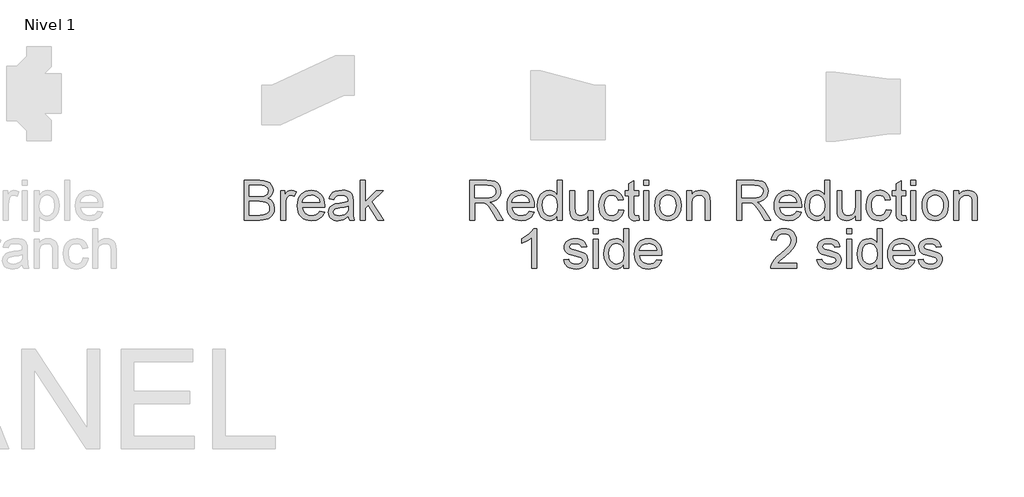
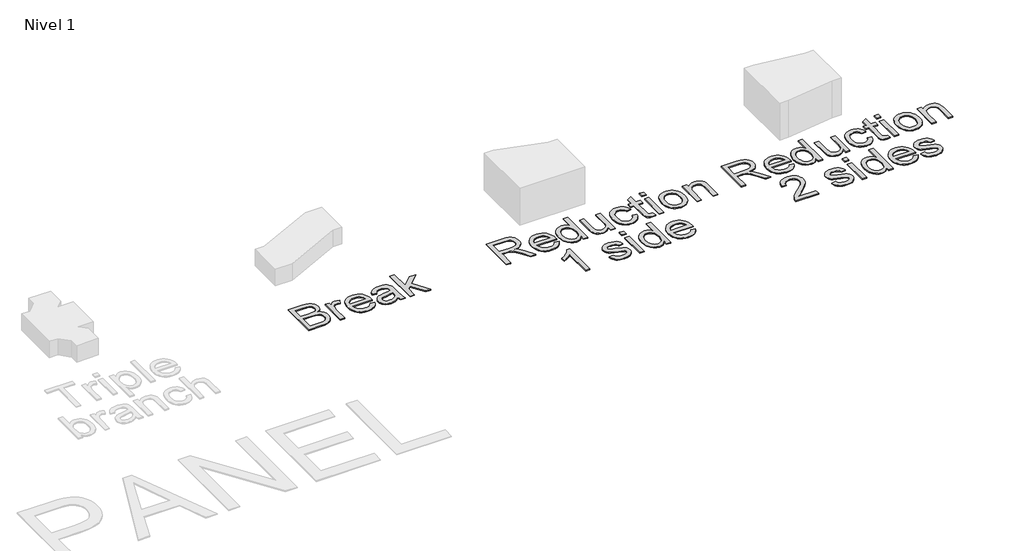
# One storey, part 5 of 6: 3 proxies.
"""IFC4 building model written with IfcOpenShell, lengths in millimetres."""

from ifc_helpers import new_model, si_unit, origin, origin_with_axes, place, context, project, spatial, polyline, outline, extrude, element, save

model = new_model("IFC4")

# Units and contexts
model_context = context("Model", 3, world=origin())
ifc_project = project(units=[si_unit("LENGTHUNIT", "METRE", prefix="MILLI")], contexts=[model_context])

# Site, building, storey
site = spatial("IfcSite", under=ifc_project)
building = spatial("IfcBuilding", under=site)
storey = spatial("IfcBuildingStorey", under=building, Name="Nivel 1", Elevation=0.0)

# Proxies
placement = place(None, origin())
element("IfcBuildingElementProxy", 1, Name="Texto de modelo 1", ObjectType="Texto de modelo 1", at=placement, inside=storey, context=model_context, shape_type="SweptSolid", body=[
    extrude(outline(polyline([(4060.8779808, -1016.3248037), (4060.8779808, -614.4995631), (4214.2111964, -614.4995631), (4256.3827358, -617.4548818), (4289.3081743, -626.3208379), (4314.5448792, -641.3181605), (4333.6502175, -662.667579), (4345.6799587, -687.7816565), (4349.6898725, -714.0729565), (4346.3176208, -738.267329), (4336.200866, -761.014699), (4319.2660315, -780.917115), (4295.4395409, -796.5766252), (4323.9013446, -811.4390578), (4344.931932, -834.0515378), (4357.9181664, -862.9180117), (4362.2469112, -896.5424261), (4359.2915925, -924.5627714), (4350.4256365, -950.547503), (4337.1941474, -972.6449481), (4321.1422296, -989.0034342), (4301.4850684, -1000.8492344), (4277.4378486, -1009.4086222), (4248.2157555, -1014.5957583), (4213.033974, -1016.3248037), (4060.8779808, -1016.3248037)]), holes=[polyline([(4111.1061359, -777.7410671), (4202.83138, -777.7410671), (4256.3949985, -773.424585), (4275.1447175, -765.981106), (4288.6214613, -754.8342815), (4296.7516534, -740.1557899), (4299.4617174, -722.1173094), (4296.9355944, -704.6061264), (4289.3572253, -689.3512864), (4277.0699666, -677.4441725), (4260.417175, -669.976168), (4234.861639, -666.0398306), (4195.8661475, -664.7277182), (4111.1061359, -664.7277182), (4111.1061359, -777.7410671)]), polyline([(4111.1061359, -966.0966486), (4214.1130945, -966.0966486), (4251.3918034, -964.1346113), (4282.9315531, -953.1962533), (4294.5075732, -943.7662115), (4303.8272504, -930.8780789), (4309.9708797, -915.1082041), (4312.0187562, -897.0329354), (4309.6152605, -876.0391362), (4302.4047734, -857.988393), (4289.8109464, -843.8739871), (4271.2574311, -834.6891999), (4244.9783939, -829.6492166), (4209.2080012, -827.9692222), (4111.1061359, -827.9692222), (4111.1061359, -966.0966486)])]), origin_with_axes(), (0.0, 0.0, 1.0), 10.0),
    extrude(outline(polyline([(4425.0321051, -1016.3248037), (4425.0321051, -721.2343926), (4468.9817408, -721.2343926), (4468.9817408, -764.8897227), (4485.2175995, -739.5794415), (4500.178134, -724.6679579), (4515.1877194, -717.3838944), (4531.5707309, -714.9558732), (4556.5867066, -718.8308969), (4581.9950897, -730.455968), (4565.2196707, -775.4847242), (4547.5613349, -767.7592023), (4529.9029992, -765.1840283), (4514.9056765, -767.6611004), (4501.5025091, -775.0923167), (4490.6745157, -786.9135915), (4483.402715, -802.560839), (4477.2958739, -830.6179725), (4475.2602602, -861.2257545), (4475.2602602, -1016.3248037), (4425.0321051, -1016.3248037)])), origin_with_axes(), (0.0, 0.0, 1.0), 10.0),
    extrude(outline(polyline([(4819.9902151, -928.4255323), (4869.2373515, -934.7040517), (4861.6865736, -954.428658), (4851.4931766, -971.8110823), (4838.6571607, -986.8513245), (4823.1785257, -999.5493847), (4805.2166873, -1009.6354827), (4784.931061, -1016.8398385), (4737.3884444, -1022.6033231), (4706.2227081, -1020.1170539), (4678.4537488, -1012.6582465), (4654.0815666, -1000.2269007), (4633.1061615, -982.8230167), (4616.2387721, -960.9309723), (4604.1906367, -935.0351455), (4596.9617555, -905.1355363), (4594.5521285, -871.2321448), (4596.986281, -836.179122), (4604.2887386, -805.2831658), (4616.4595013, -778.5442761), (4633.498569, -755.962453), (4654.4187918, -738.0220743), (4678.2330196, -725.2075182), (4704.9412525, -717.5187845), (4734.5434904, -714.9558732), (4763.1923007, -717.5126531), (4789.1003902, -725.1829927), (4812.2677589, -737.966892), (4832.6944067, -755.8643511), (4849.3686581, -778.3971233), (4861.2788377, -805.0869621), (4868.4249454, -835.9338674), (4870.8069814, -870.9378392), (4870.5126758, -884.4758966), (4644.7802835, -884.4758966), (4647.689617, -904.519334), (4653.4745613, -922.0734365), (4662.1351167, -937.1382042), (4673.6712829, -949.7136371), (4687.4453979, -959.6280569), (4702.8197996, -966.7097853), (4738.3694631, -972.375168), (4765.1022214, -969.7509431), (4787.6165995, -961.8782684), (4805.9125974, -948.2666346), (4819.9902151, -928.4255323)]), holes=[polyline([(4644.7802835, -834.2477415), (4820.5788263, -834.2477415), (4813.7852721, -807.711187), (4800.4679439, -788.728476), (4786.7704709, -778.4277801), (4771.1845371, -771.0701402), (4753.7101423, -766.6555563), (4734.3472866, -765.1840283), (4700.4898803, -769.8806551), (4672.4940605, -783.9705355), (4653.033103, -805.9330907), (4644.7802835, -834.2477415)])]), origin_with_axes(), (0.0, 0.0, 1.0), 10.0),
    extrude(outline(polyline([(5109.390718, -978.6536874), (5085.3925492, -999.2305537), (5060.6831418, -1012.6950347), (5034.6984102, -1020.126251), (5006.8742686, -1022.6033231), (4984.510109, -1021.113401), (4964.898933, -1016.6436348), (4948.0407406, -1009.1940244), (4933.9355317, -998.7645698), (4922.7979043, -986.0174587), (4914.8424562, -971.6148785), (4910.0691873, -955.5568295), (4908.4780977, -937.8433114), (4910.8815934, -917.0211905), (4918.0920805, -898.1120559), (4929.2143795, -881.9252481), (4943.3533108, -869.2701075), (4959.9693143, -859.7051756), (4978.5228296, -852.7889941), (5021.9819559, -845.2351505), (5073.3382824, -837.2888994), (5109.0964124, -827.9692222), (5109.390718, -816.7856095), (5105.9326272, -794.3693333), (5095.558355, -779.7031044), (5072.3572638, -768.8137973), (5040.0326991, -765.1840283), (5010.1116302, -767.5997868), (4989.2159329, -774.8470621), (4974.9666369, -788.2502294), (4964.9847721, -809.133664), (4914.7566171, -802.8551446), (4923.4754203, -775.3866223), (4936.4861802, -753.8042119), (4955.0029073, -737.2985731), (4980.2396122, -725.0603654), (5011.1049116, -717.4819963), (5046.5074223, -714.9558732), (5080.4629304, -717.1876907), (5107.3796297, -723.883143), (5127.6744531, -733.9508469), (5141.7643335, -746.2994192), (5151.1085362, -761.566522), (5157.1663264, -780.3898175), (5159.618873, -824.3394531), (5159.618873, -886.8303414), (5162.1695215, -974.0919506), (5172.1759118, -1016.3248037), (5121.9477567, -1016.3248037), (5113.9034038, -998.8626717), (5109.390718, -978.6536874)]), holes=[polyline([(5109.390718, -878.1973772), (5075.6436763, -886.5605613), (5028.3585772, -893.5993701), (4985.1447055, -901.7418249), (4973.8997791, -907.3091058), (4965.5733833, -914.9855768), (4960.4230354, -924.1826266), (4958.7062527, -934.3116442), (4962.4463864, -949.2476532), (4973.6667872, -961.4858609), (4992.1222006, -969.6528412), (5017.567372, -972.375168), (5044.545385, -969.3707984), (5068.3841382, -960.3576895), (5087.7102057, -947.0771495), (5101.1501613, -931.2704864), (5107.1098496, -914.9855768), (5109.0964124, -892.4221477), (5109.390718, -878.1973772)])]), origin_with_axes(), (0.0, 0.0, 1.0), 10.0),
    extrude(outline(polyline([(5228.6825863, -1016.3248037), (5228.6825863, -614.4995631), (5278.9107413, -614.4995631), (5278.9107413, -830.4217688), (5391.5316828, -721.2343926), (5460.9878035, -721.2343926), (5346.9934359, -831.7951949), (5467.2663229, -1016.3248037), (5408.6014074, -1016.3248037), (5310.9900513, -866.719459), (5278.9107413, -897.8177503), (5278.9107413, -1016.3248037), (5228.6825863, -1016.3248037)])), origin_with_axes(), (0.0, 0.0, 1.0), 10.0),
])
element("IfcBuildingElementProxy", 2, Name="Texto de modelo 1", ObjectType="Texto de modelo 1", at=placement, inside=storey, context=model_context, shape_type="SweptSolid", body=[
    extrude(outline(polyline([(6336.6216122, -1016.3248037), (6336.6216122, -614.4995631), (6509.7714046, -614.4995631), (6556.308477, -617.2096271), (6590.1658833, -625.3398192), (6614.9120788, -640.3494046), (6634.115519, -663.6976486), (6646.4395658, -692.6499616), (6650.5475814, -724.4717542), (6648.8461272, -745.1099341), (6643.7417645, -764.0558569), (6635.2344934, -781.3095224), (6623.3243138, -796.8709308), (6607.8579416, -810.2434414), (6588.6820926, -820.9304133), (6565.7967668, -828.9318467), (6539.2019642, -834.2477415), (6567.749607, -855.7320501), (6608.4618812, -907.4317331), (6675.4654552, -1016.3248037), (6617.0948453, -1016.3248037), (6564.8065511, -933.03632), (6527.0373329, -877.9030716), (6512.9965034, -861.8266285), (6500.5007783, -851.8570264), (6476.6129741, -842.2920945), (6447.4767201, -840.5262609), (6386.8497673, -840.5262609), (6386.8497673, -1016.3248037), (6336.6216122, -1016.3248037)]), holes=[polyline([(6386.8497673, -790.2981059), (6499.274505, -790.2981059), (6531.5622814, -788.5200095), (6556.6150453, -783.1857206), (6575.4751289, -773.9396198), (6589.1848646, -760.4260878), (6597.5357859, -744.0798645), (6600.3194263, -726.3356896), (6595.0096629, -701.8347488), (6579.0803725, -682.0917483), (6566.9188069, -674.4949851), (6551.6731638, -669.0687257), (6511.9296456, -664.7277182), (6386.8497673, -664.7277182), (6386.8497673, -790.2981059)])]), origin_with_axes(), (0.0, 0.0, 1.0), 10.0),
    extrude(outline(polyline([(6938.7708619, -928.4255323), (6988.0179983, -934.7040517), (6980.4672204, -954.428658), (6970.2738234, -971.8110823), (6957.4378075, -986.8513245), (6941.9591725, -999.5493847), (6923.9973341, -1009.6354827), (6903.7117078, -1016.8398385), (6856.1690912, -1022.6033231), (6825.0033549, -1020.1170539), (6797.2343956, -1012.6582465), (6772.8622134, -1000.2269007), (6751.8868083, -982.8230167), (6735.0194189, -960.9309723), (6722.9712835, -935.0351455), (6715.7424023, -905.1355363), (6713.3327753, -871.2321448), (6715.7669278, -836.179122), (6723.0693854, -805.2831658), (6735.2401481, -778.5442761), (6752.2792158, -755.962453), (6773.1994386, -738.0220743), (6797.0136664, -725.2075182), (6823.7218993, -717.5187845), (6853.3241371, -714.9558732), (6881.9729475, -717.5126531), (6907.881037, -725.1829927), (6931.0484057, -737.966892), (6951.4750535, -755.8643511), (6968.1493049, -778.3971233), (6980.0594845, -805.0869621), (6987.2055922, -835.9338674), (6989.5876282, -870.9378392), (6989.2933226, -884.4758966), (6763.5609303, -884.4758966), (6766.4702638, -904.519334), (6772.2552081, -922.0734365), (6780.9157634, -937.1382042), (6792.4519297, -949.7136371), (6806.2260447, -959.6280569), (6821.6004464, -966.7097853), (6857.1501099, -972.375168), (6883.8828682, -969.7509431), (6906.3972463, -961.8782684), (6924.6932442, -948.2666346), (6938.7708619, -928.4255323)]), holes=[polyline([(6763.5609303, -834.2477415), (6939.3594731, -834.2477415), (6932.5659189, -807.711187), (6919.2485907, -788.728476), (6905.5511177, -778.4277801), (6889.9651839, -771.0701402), (6872.4907891, -766.6555563), (6853.1279334, -765.1840283), (6819.2705271, -769.8806551), (6791.2747073, -783.9705355), (6771.8137498, -805.9330907), (6763.5609303, -834.2477415)])]), origin_with_axes(), (0.0, 0.0, 1.0), 10.0),
    extrude(outline(polyline([(7221.8928454, -1016.3248037), (7221.8928454, -968.9416027), (7206.8648659, -992.4186054), (7188.6608385, -1009.187893), (7167.2807632, -1019.2494656), (7142.72464, -1022.6033231), (7110.2529226, -1017.7472807), (7080.5280574, -1003.1791537), (7055.3649289, -979.9167489), (7036.5784217, -948.9778731), (7024.8797742, -911.6133251), (7020.9802251, -869.0739038), (7024.5732059, -827.0617799), (7035.3521484, -789.1208835), (7053.3047897, -757.4094555), (7078.4188673, -734.085737), (7108.7936573, -719.7383392), (7142.5284363, -714.9558732), (7167.1029536, -718.3771758), (7188.8325168, -728.6410835), (7207.251142, -744.3741701), (7221.8928454, -764.2030097), (7221.8928454, -614.4995631), (7272.1210005, -614.4995631), (7272.1210005, -1016.3248037), (7221.8928454, -1016.3248037)]), holes=[polyline([(7071.2083802, -868.8777), (7072.6247258, -893.2345538), (7076.8737629, -914.3111264), (7083.9554913, -932.1074179), (7093.8699111, -946.6234283), (7118.5670557, -965.9372331), (7132.4423383, -970.7656843), (7147.3354277, -972.375168), (7162.2990278, -970.8392607), (7176.091537, -966.2315387), (7200.1632822, -947.8006507), (7209.6699661, -933.8916456), (7216.4604546, -916.7391476), (7221.8928454, -872.7036728), (7216.3623527, -824.5601823), (7209.4492369, -806.0250612), (7199.7708747, -791.1810226), (7188.0691616, -779.8073376), (7175.0859929, -771.6832769), (7160.8213685, -766.8088405), (7145.2752885, -765.1840283), (7130.0878935, -766.7444611), (7116.2126109, -771.4257595), (7103.6494408, -779.2279235), (7092.3983831, -790.1509531), (7083.1277568, -804.4339715), (7076.5058809, -822.3161022), (7071.2083802, -868.8777)])]), origin_with_axes(), (0.0, 0.0, 1.0), 10.0),
    extrude(outline(polyline([(7535.8188146, -1016.3248037), (7535.8188146, -965.6061393), (7517.645444, -990.5424072), (7496.4799666, -1008.3540271), (7472.3223822, -1019.0409991), (7445.172691, -1022.6033231), (7420.7085383, -1020.1017255), (7397.9366428, -1012.5969328), (7378.8313045, -1001.3152183), (7365.3668235, -987.4828553), (7356.3046637, -970.6829108), (7350.406289, -950.498452), (7347.4632331, -903.8019641), (7347.4632331, -721.2343926), (7397.6913881, -721.2343926), (7397.6913881, -880.1594145), (7400.732546, -931.3685883), (7408.0533977, -948.4505756), (7420.5981737, -961.43681), (7437.5330082, -969.6405785), (7458.0240354, -972.375168), (7479.6922849, -969.5792648), (7499.9625828, -961.1915554), (7516.6766881, -947.9845917), (7527.6763598, -930.7309262), (7533.7832009, -907.1006393), (7535.8188146, -874.763812), (7535.8188146, -721.2343926), (7586.0469697, -721.2343926), (7586.0469697, -1016.3248037), (7535.8188146, -1016.3248037)])), origin_with_axes(), (0.0, 0.0, 1.0), 10.0),
    extrude(outline(polyline([(7843.4662644, -909.5899742), (7893.6944195, -915.8684935), (7888.2313719, -939.5692911), (7879.6903782, -960.5416305), (7868.0714385, -978.7855118), (7853.3745528, -994.3009349), (7836.2189891, -1006.6832297), (7817.2240154, -1015.527726), (7796.3896318, -1020.8344238), (7773.7158381, -1022.6033231), (7745.5452744, -1020.135448), (7720.2871097, -1012.7318229), (7697.9413442, -1000.3924476), (7678.5079778, -983.1173223), (7662.7779568, -961.2314092), (7651.5422276, -935.059671), (7644.80079, -904.6021074), (7642.5536441, -869.8587187), (7646.3918796, -825.1610563), (7657.9065861, -786.4230822), (7677.2817045, -755.1408499), (7704.7011759, -732.8104127), (7737.5039871, -719.4195081), (7773.0291251, -714.9558732), (7795.3135769, -716.4887149), (7815.4704446, -721.0872398), (7833.499728, -728.7514481), (7849.4014273, -739.4813396), (7862.9057622, -753.0316597), (7873.7429526, -769.1571539), (7881.9129986, -787.857822), (7887.4159001, -809.133664), (7837.1877451, -815.4121834), (7828.0765343, -793.4986792), (7813.888552, -777.790118), (7795.4086131, -768.3355507), (7773.4215326, -765.1840283), (7756.3548737, -766.7352641), (7740.9620778, -771.3889713), (7727.2431451, -779.14515), (7715.1980754, -790.0038003), (7705.3909546, -804.216308), (7698.3858683, -822.0340593), (7694.1828165, -843.4570542), (7692.7817992, -868.4852926), (7698.2632409, -915.5619252), (7705.1150431, -933.4992382), (7714.7075661, -947.7025489), (7726.5135125, -958.4968197), (7740.0055847, -966.2070132), (7755.1837826, -970.8331293), (7772.0481064, -972.375168), (7798.0573635, -968.5246698), (7819.3822565, -956.9731751), (7834.8946139, -937.4263785), (7843.4662644, -909.5899742)])), origin_with_axes(), (0.0, 0.0, 1.0), 10.0),
    extrude(outline(polyline([(8044.3788847, -974.4353072), (8050.6574041, -1017.7963317), (8013.0843897, -1022.6033231), (7988.9758563, -1020.5186584), (7970.9986894, -1014.2646645), (7958.2944979, -1004.6261562), (7950.0048902, -992.3879485), (7945.4431535, -971.3696239), (7943.9225746, -935.3907648), (7943.9225746, -771.4625477), (7906.2514583, -771.4625477), (7906.2514583, -721.2343926), (7943.9225746, -721.2343926), (7943.9225746, -649.521929), (7994.1507297, -619.9932676), (7994.1507297, -721.2343926), (8044.3788847, -721.2343926), (8044.3788847, -771.4625477), (7994.1507297, -771.4625477), (7994.1507297, -933.9192368), (7996.79948, -959.8181292), (8005.3833932, -968.9906536), (8022.5021688, -972.375168), (8044.3788847, -974.4353072)])), origin_with_axes(), (0.0, 0.0, 1.0), 10.0),
    extrude(outline(polyline([(8094.6070398, -664.7277182), (8094.6070398, -614.4995631), (8144.8351949, -614.4995631), (8144.8351949, -664.7277182), (8094.6070398, -664.7277182)])), origin_with_axes(), (0.0, 0.0, 1.0), 10.0),
    extrude(outline(polyline([(8094.6070398, -1016.3248037), (8094.6070398, -721.2343926), (8144.8351949, -721.2343926), (8144.8351949, -1016.3248037), (8094.6070398, -1016.3248037)])), origin_with_axes(), (0.0, 0.0, 1.0), 10.0),
    extrude(outline(polyline([(8207.6203887, -868.7795982), (8210.3365841, -830.5627902), (8218.4851703, -797.6312203), (8232.0661473, -769.9848884), (8251.0795151, -747.6237944), (8270.2216416, -733.3315789), (8291.3503308, -723.1228535), (8314.4655829, -716.9976183), (8339.5673977, -714.9558732), (8367.278109, -717.4421424), (8392.3339385, -724.9009498), (8414.7348863, -737.3322956), (8434.4809524, -754.7361797), (8450.5972495, -776.5239908), (8462.1088903, -802.1071179), (8469.0158747, -831.4855609), (8471.3182029, -864.6593198), (8467.2469755, -915.4025097), (8455.0332932, -954.0301192), (8435.0327754, -982.9579067), (8407.6010413, -1004.6016308), (8375.0189593, -1018.1029), (8339.5673977, -1022.6033231), (8311.4520162, -1020.126251), (8286.1631947, -1012.6950347), (8263.7009332, -1000.3096742), (8244.0652317, -982.9701695), (8228.1206129, -960.9708262), (8216.7315995, -934.6059498), (8209.8981914, -903.8755405), (8207.6203887, -868.7795982)]), holes=[polyline([(8257.8485438, -868.6814963), (8259.3016777, -893.0444814), (8263.6610793, -914.1394482), (8270.9267487, -931.9663965), (8281.0986859, -946.5253265), (8293.4717837, -957.8346321), (8307.3409349, -965.9127076), (8322.7061396, -970.7595529), (8339.5673977, -972.375168), (8356.3428166, -970.7503559), (8371.6467076, -965.8759194), (8385.4790707, -957.7518587), (8397.8399057, -946.3781737), (8408.0118429, -931.6751566), (8415.2775123, -913.5630997), (8419.6369139, -892.042003), (8421.0900478, -867.1118665), (8419.6277169, -843.5214335), (8415.2407241, -822.9782898), (8407.9290694, -805.4824352), (8397.6927529, -791.0338698), (8385.2859326, -779.7245642), (8371.4627666, -771.6464887), (8356.223255, -766.7996434), (8339.5673977, -765.1840283), (8322.7061396, -766.793512), (8307.3409349, -771.6219632), (8293.4717837, -779.6693819), (8281.0986859, -790.935768), (8270.9267487, -805.4517784), (8263.6610793, -823.2480699), (8259.3016777, -844.3246425), (8257.8485438, -868.6814963)])]), origin_with_axes(), (0.0, 0.0, 1.0), 10.0),
    extrude(outline(polyline([(8527.8248773, -1016.3248037), (8527.8248773, -721.2343926), (8578.0530324, -721.2343926), (8578.0530324, -762.4371761), (8595.5029017, -741.6641061), (8616.4599127, -726.826199), (8640.9240654, -717.9234547), (8668.8953597, -714.9558732), (8693.653818, -717.3471062), (8716.3276117, -724.5208051), (8735.2367462, -735.5817904), (8748.7012272, -749.6348827), (8757.8369634, -766.6432936), (8763.7598636, -786.570235), (8766.4086139, -835.1306583), (8766.4086139, -1016.3248037), (8716.1804589, -1016.3248037), (8716.1804589, -841.899687), (8714.7334563, -815.9272182), (8710.3924488, -797.459542), (8702.384884, -784.2280529), (8689.9382099, -773.9641453), (8673.984394, -767.3790576), (8655.4554042, -765.1840283), (8626.0371073, -770.1136471), (8600.959818, -784.9025033), (8590.9380993, -796.9751641), (8583.7797288, -813.4746716), (8579.4847065, -834.4010257), (8578.0530324, -859.7542265), (8578.0530324, -1016.3248037), (8527.8248773, -1016.3248037)])), origin_with_axes(), (0.0, 0.0, 1.0), 10.0),
    extrude(outline(polyline([(7014.7017057, -1504.2240751), (6964.4735506, -1504.2240751), (6964.4735506, -1191.0829208), (6943.5042769, -1208.0422808), (6916.8941459, -1224.9771153), (6864.0172405, -1250.3364475), (6864.0172405, -1202.8551446), (6903.4664531, -1181.3953616), (6937.6426904, -1155.8643511), (6964.5839152, -1128.7146599), (6982.3280901, -1102.3988345), (7014.7017057, -1102.3988345), (7014.7017057, -1504.2240751)])), origin_with_axes(), (0.0, 0.0, 1.0), 10.0),
    extrude(outline(polyline([(7284.6780392, -1416.3248037), (7334.9061943, -1410.0462843), (7342.8279199, -1431.5305928), (7358.1563364, -1447.3249932), (7380.9895456, -1457.0370778), (7411.4256493, -1460.2744394), (7441.493871, -1457.306858), (7462.634823, -1448.4041137), (7475.1428109, -1435.5037184), (7479.3121401, -1420.5431839), (7475.1182854, -1407.7408905), (7462.5367212, -1397.9797549), (7410.8370381, -1383.6568825), (7335.2004999, -1359.0823652), (7316.0583734, -1346.7337929), (7302.1892222, -1330.3875696), (7293.7647245, -1311.0860276), (7290.9565586, -1289.8714992), (7293.2129015, -1270.4105417), (7299.9819302, -1252.4456376), (7310.6505081, -1236.6880254), (7324.6054984, -1223.8489438), (7356.5376556, -1208.9865112), (7377.4210902, -1204.3879863), (7399.7515273, -1202.8551446), (7432.443974, -1205.319954), (7460.8689895, -1212.7143821), (7483.7267241, -1224.3149277), (7499.7173281, -1239.3980895), (7510.3123296, -1259.0797762), (7516.9832564, -1284.4758966), (7466.7551014, -1290.754416), (7460.4152683, -1274.9477529), (7447.8704923, -1263.040639), (7428.9981459, -1255.5726345), (7403.6756019, -1253.0832997), (7374.8336535, -1255.4622699), (7355.6056879, -1262.5991806), (7344.7899572, -1272.8998765), (7341.1847137, -1284.7702022), (7347.1689275, -1299.3873802), (7365.9063838, -1310.4728909), (7409.1693064, -1321.1659943), (7482.8928582, -1344.8085438), (7502.3660785, -1356.1147838), (7517.1304092, -1371.5903531), (7526.4378237, -1391.2843026), (7529.5402952, -1415.2456832), (7525.8982635, -1440.0164042), (7514.9721682, -1463.3155972), (7497.1789424, -1483.316115), (7472.9355189, -1498.1908104), (7443.6521121, -1507.4246484), (7410.7389362, -1510.5025945), (7383.705741, -1509.0188037), (7360.0938482, -1504.5674316), (7339.9032581, -1497.148478), (7323.1339705, -1486.761943), (7309.4364975, -1473.4568775), (7298.4613513, -1457.2823325), (7290.2085319, -1438.2383079), (7284.6780392, -1416.3248037)])), origin_with_axes(), (0.0, 0.0, 1.0), 10.0),
    extrude(outline(polyline([(7586.0469697, -1152.6269896), (7586.0469697, -1102.3988345), (7636.2751248, -1102.3988345), (7636.2751248, -1152.6269896), (7586.0469697, -1152.6269896)])), origin_with_axes(), (0.0, 0.0, 1.0), 10.0),
    extrude(outline(polyline([(7586.0469697, -1504.2240751), (7586.0469697, -1209.133664), (7636.2751248, -1209.133664), (7636.2751248, -1504.2240751), (7586.0469697, -1504.2240751)])), origin_with_axes(), (0.0, 0.0, 1.0), 10.0),
    extrude(outline(polyline([(7893.6944195, -1504.2240751), (7893.6944195, -1456.8408741), (7878.66644, -1480.3178768), (7860.4624126, -1497.0871644), (7839.0823373, -1507.1487369), (7814.5262141, -1510.5025945), (7782.0544967, -1505.6465521), (7752.3296315, -1491.0784251), (7727.166503, -1467.8160203), (7708.3799958, -1436.8771445), (7696.6813484, -1399.5125965), (7692.7817992, -1356.9731751), (7696.37478, -1314.9610513), (7707.1537225, -1277.0201549), (7725.1063639, -1245.3087269), (7750.2204414, -1221.9850084), (7780.5952315, -1207.6376106), (7814.3300104, -1202.8551446), (7838.9045277, -1206.2764472), (7860.6340909, -1216.5403548), (7879.0527161, -1232.2734415), (7893.6944195, -1252.102281), (7893.6944195, -1102.3988345), (7943.9225746, -1102.3988345), (7943.9225746, -1504.2240751), (7893.6944195, -1504.2240751)]), holes=[polyline([(7743.0099543, -1356.7769714), (7744.4263, -1381.1338252), (7748.675337, -1402.2103978), (7755.7570654, -1420.0066893), (7765.6714852, -1434.5226997), (7790.3686298, -1453.8365045), (7804.2439124, -1458.6649557), (7819.1370018, -1460.2744394), (7834.100602, -1458.7385321), (7847.8931111, -1454.1308101), (7871.9648563, -1435.6999221), (7881.4715402, -1421.790917), (7888.2620287, -1404.638419), (7893.6944195, -1360.6029442), (7888.1639268, -1312.4594537), (7881.250811, -1293.9243325), (7871.5724489, -1279.080294), (7859.8707357, -1267.706609), (7846.887567, -1259.5825483), (7832.6229426, -1254.7081118), (7817.0768626, -1253.0832997), (7801.8894676, -1254.6437325), (7788.014185, -1259.3250309), (7775.4510149, -1267.1271949), (7764.1999572, -1278.0502244), (7754.9293309, -1292.3332429), (7748.307455, -1310.2153736), (7743.0099543, -1356.7769714)])]), origin_with_axes(), (0.0, 0.0, 1.0), 10.0),
    extrude(outline(polyline([(8225.8673357, -1416.3248037), (8275.1144721, -1422.6033231), (8267.5636942, -1442.3279294), (8257.3702972, -1459.7103537), (8244.5342813, -1474.7505959), (8229.0556463, -1487.4486561), (8211.0938079, -1497.5347541), (8190.8081815, -1504.7391099), (8143.265565, -1510.5025945), (8112.0998287, -1508.0163253), (8084.3308694, -1500.5575179), (8059.9586872, -1488.1261721), (8038.9832821, -1470.722288), (8022.1158927, -1448.8302437), (8010.0677573, -1422.9344169), (8002.8388761, -1393.0348077), (8000.429249, -1359.1314162), (8002.8634016, -1324.0783934), (8010.1658592, -1293.1824372), (8022.3366219, -1266.4435475), (8039.3756896, -1243.8617244), (8060.2959124, -1225.9213457), (8084.1101402, -1213.1067896), (8110.8183731, -1205.4180559), (8140.4206109, -1202.8551446), (8169.0694213, -1205.4119245), (8194.9775108, -1213.0822641), (8218.1448795, -1225.8661634), (8238.5715273, -1243.7636225), (8255.2457787, -1266.2963947), (8267.1559583, -1292.9862334), (8274.302066, -1323.8331387), (8276.684102, -1358.8371106), (8276.3897964, -1372.375168), (8050.6574041, -1372.375168), (8053.5667376, -1392.4186054), (8059.3516819, -1409.9727079), (8068.0122372, -1425.0374756), (8079.5484035, -1437.6129085), (8093.3225185, -1447.5273283), (8108.6969202, -1454.6090567), (8144.2465837, -1460.2744394), (8170.979342, -1457.6502145), (8193.4937201, -1449.7775398), (8211.789718, -1436.165906), (8225.8673357, -1416.3248037)]), holes=[polyline([(8050.6574041, -1322.1470129), (8226.4559469, -1322.1470129), (8219.6623927, -1295.6104583), (8206.3450645, -1276.6277474), (8192.6475915, -1266.3270515), (8177.0616577, -1258.9694116), (8159.5872629, -1254.5548277), (8140.2244072, -1253.0832997), (8106.3670009, -1257.7799265), (8078.3711811, -1271.8698069), (8058.9102235, -1293.832362), (8050.6574041, -1322.1470129)])]), origin_with_axes(), (0.0, 0.0, 1.0), 10.0),
])
element("IfcBuildingElementProxy", 3, Name="Texto de modelo 1", ObjectType="Texto de modelo 1", at=placement, inside=storey, context=model_context, shape_type="SweptSolid", body=[
    extrude(outline(polyline([(9036.6216122, -1016.3248037), (9036.6216122, -614.4995631), (9209.7714046, -614.4995631), (9256.308477, -617.2096271), (9290.1658833, -625.3398192), (9314.9120788, -640.3494046), (9334.115519, -663.6976486), (9346.4395658, -692.6499616), (9350.5475814, -724.4717542), (9348.8461272, -745.1099341), (9343.7417645, -764.0558569), (9335.2344934, -781.3095224), (9323.3243138, -796.8709308), (9307.8579416, -810.2434414), (9288.6820926, -820.9304133), (9265.7967668, -828.9318467), (9239.2019642, -834.2477415), (9267.749607, -855.7320501), (9308.4618812, -907.4317331), (9375.4654552, -1016.3248037), (9317.0948453, -1016.3248037), (9264.8065511, -933.03632), (9227.0373329, -877.9030716), (9212.9965034, -861.8266285), (9200.5007783, -851.8570264), (9176.6129741, -842.2920945), (9147.4767201, -840.5262609), (9086.8497673, -840.5262609), (9086.8497673, -1016.3248037), (9036.6216122, -1016.3248037)]), holes=[polyline([(9086.8497673, -790.2981059), (9199.274505, -790.2981059), (9231.5622814, -788.5200095), (9256.6150453, -783.1857206), (9275.4751289, -773.9396198), (9289.1848646, -760.4260878), (9297.5357859, -744.0798645), (9300.3194263, -726.3356896), (9295.0096629, -701.8347488), (9279.0803725, -682.0917483), (9266.9188069, -674.4949851), (9251.6731638, -669.0687257), (9211.9296456, -664.7277182), (9086.8497673, -664.7277182), (9086.8497673, -790.2981059)])]), origin_with_axes(), (0.0, 0.0, 1.0), 10.0),
    extrude(outline(polyline([(9638.7708619, -928.4255323), (9688.0179983, -934.7040517), (9680.4672204, -954.428658), (9670.2738234, -971.8110823), (9657.4378075, -986.8513245), (9641.9591725, -999.5493847), (9623.9973341, -1009.6354827), (9603.7117078, -1016.8398385), (9556.1690912, -1022.6033231), (9525.0033549, -1020.1170539), (9497.2343956, -1012.6582465), (9472.8622134, -1000.2269007), (9451.8868083, -982.8230167), (9435.0194189, -960.9309723), (9422.9712835, -935.0351455), (9415.7424023, -905.1355363), (9413.3327753, -871.2321448), (9415.7669278, -836.179122), (9423.0693854, -805.2831658), (9435.2401481, -778.5442761), (9452.2792158, -755.962453), (9473.1994386, -738.0220743), (9497.0136664, -725.2075182), (9523.7218993, -717.5187845), (9553.3241371, -714.9558732), (9581.9729475, -717.5126531), (9607.881037, -725.1829927), (9631.0484057, -737.966892), (9651.4750535, -755.8643511), (9668.1493049, -778.3971233), (9680.0594845, -805.0869621), (9687.2055922, -835.9338674), (9689.5876282, -870.9378392), (9689.2933226, -884.4758966), (9463.5609303, -884.4758966), (9466.4702638, -904.519334), (9472.2552081, -922.0734365), (9480.9157634, -937.1382042), (9492.4519297, -949.7136371), (9506.2260447, -959.6280569), (9521.6004464, -966.7097853), (9557.1501099, -972.375168), (9583.8828682, -969.7509431), (9606.3972463, -961.8782684), (9624.6932442, -948.2666346), (9638.7708619, -928.4255323)]), holes=[polyline([(9463.5609303, -834.2477415), (9639.3594731, -834.2477415), (9632.5659189, -807.711187), (9619.2485907, -788.728476), (9605.5511177, -778.4277801), (9589.9651839, -771.0701402), (9572.4907891, -766.6555563), (9553.1279334, -765.1840283), (9519.2705271, -769.8806551), (9491.2747073, -783.9705355), (9471.8137498, -805.9330907), (9463.5609303, -834.2477415)])]), origin_with_axes(), (0.0, 0.0, 1.0), 10.0),
    extrude(outline(polyline([(9921.8928454, -1016.3248037), (9921.8928454, -968.9416027), (9906.8648659, -992.4186054), (9888.6608385, -1009.187893), (9867.2807632, -1019.2494656), (9842.72464, -1022.6033231), (9810.2529226, -1017.7472807), (9780.5280574, -1003.1791537), (9755.3649289, -979.9167489), (9736.5784217, -948.9778731), (9724.8797742, -911.6133251), (9720.9802251, -869.0739038), (9724.5732059, -827.0617799), (9735.3521484, -789.1208835), (9753.3047897, -757.4094555), (9778.4188673, -734.085737), (9808.7936573, -719.7383392), (9842.5284363, -714.9558732), (9867.1029536, -718.3771758), (9888.8325168, -728.6410835), (9907.251142, -744.3741701), (9921.8928454, -764.2030097), (9921.8928454, -614.4995631), (9972.1210005, -614.4995631), (9972.1210005, -1016.3248037), (9921.8928454, -1016.3248037)]), holes=[polyline([(9771.2083802, -868.8777), (9772.6247258, -893.2345538), (9776.8737629, -914.3111264), (9783.9554913, -932.1074179), (9793.8699111, -946.6234283), (9818.5670557, -965.9372331), (9832.4423383, -970.7656843), (9847.3354277, -972.375168), (9862.2990278, -970.8392607), (9876.091537, -966.2315387), (9900.1632822, -947.8006507), (9909.6699661, -933.8916456), (9916.4604546, -916.7391476), (9921.8928454, -872.7036728), (9916.3623527, -824.5601823), (9909.4492369, -806.0250612), (9899.7708747, -791.1810226), (9888.0691616, -779.8073376), (9875.0859929, -771.6832769), (9860.8213685, -766.8088405), (9845.2752885, -765.1840283), (9830.0878935, -766.7444611), (9816.2126109, -771.4257595), (9803.6494408, -779.2279235), (9792.3983831, -790.1509531), (9783.1277568, -804.4339715), (9776.5058809, -822.3161022), (9771.2083802, -868.8777)])]), origin_with_axes(), (0.0, 0.0, 1.0), 10.0),
    extrude(outline(polyline([(10235.8188146, -1016.3248037), (10235.8188146, -965.6061393), (10217.645444, -990.5424072), (10196.4799666, -1008.3540271), (10172.3223822, -1019.0409991), (10145.172691, -1022.6033231), (10120.7085383, -1020.1017255), (10097.9366428, -1012.5969328), (10078.8313045, -1001.3152183), (10065.3668235, -987.4828553), (10056.3046637, -970.6829108), (10050.406289, -950.498452), (10047.4632331, -903.8019641), (10047.4632331, -721.2343926), (10097.6913881, -721.2343926), (10097.6913881, -880.1594145), (10100.732546, -931.3685883), (10108.0533977, -948.4505756), (10120.5981737, -961.43681), (10137.5330082, -969.6405785), (10158.0240354, -972.375168), (10179.6922849, -969.5792648), (10199.9625828, -961.1915554), (10216.6766881, -947.9845917), (10227.6763598, -930.7309262), (10233.7832009, -907.1006393), (10235.8188146, -874.763812), (10235.8188146, -721.2343926), (10286.0469697, -721.2343926), (10286.0469697, -1016.3248037), (10235.8188146, -1016.3248037)])), origin_with_axes(), (0.0, 0.0, 1.0), 10.0),
    extrude(outline(polyline([(10543.4662644, -909.5899742), (10593.6944195, -915.8684935), (10588.2313719, -939.5692911), (10579.6903782, -960.5416305), (10568.0714385, -978.7855118), (10553.3745528, -994.3009349), (10536.2189891, -1006.6832297), (10517.2240154, -1015.527726), (10496.3896318, -1020.8344238), (10473.7158381, -1022.6033231), (10445.5452744, -1020.135448), (10420.2871097, -1012.7318229), (10397.9413442, -1000.3924476), (10378.5079778, -983.1173223), (10362.7779568, -961.2314092), (10351.5422276, -935.059671), (10344.80079, -904.6021074), (10342.5536441, -869.8587187), (10346.3918796, -825.1610563), (10357.9065861, -786.4230822), (10377.2817045, -755.1408499), (10404.7011759, -732.8104127), (10437.5039871, -719.4195081), (10473.0291251, -714.9558732), (10495.3135769, -716.4887149), (10515.4704446, -721.0872398), (10533.499728, -728.7514481), (10549.4014273, -739.4813396), (10562.9057622, -753.0316597), (10573.7429526, -769.1571539), (10581.9129986, -787.857822), (10587.4159001, -809.133664), (10537.1877451, -815.4121834), (10528.0765343, -793.4986792), (10513.888552, -777.790118), (10495.4086131, -768.3355507), (10473.4215326, -765.1840283), (10456.3548737, -766.7352641), (10440.9620778, -771.3889713), (10427.2431451, -779.14515), (10415.1980754, -790.0038003), (10405.3909546, -804.216308), (10398.3858683, -822.0340593), (10394.1828165, -843.4570542), (10392.7817992, -868.4852926), (10398.2632409, -915.5619252), (10405.1150431, -933.4992382), (10414.7075661, -947.7025489), (10426.5135125, -958.4968197), (10440.0055847, -966.2070132), (10455.1837826, -970.8331293), (10472.0481064, -972.375168), (10498.0573635, -968.5246698), (10519.3822565, -956.9731751), (10534.8946139, -937.4263785), (10543.4662644, -909.5899742)])), origin_with_axes(), (0.0, 0.0, 1.0), 10.0),
    extrude(outline(polyline([(10744.3788847, -974.4353072), (10750.6574041, -1017.7963317), (10713.0843897, -1022.6033231), (10688.9758563, -1020.5186584), (10670.9986894, -1014.2646645), (10658.2944979, -1004.6261562), (10650.0048902, -992.3879485), (10645.4431535, -971.3696239), (10643.9225746, -935.3907648), (10643.9225746, -771.4625477), (10606.2514583, -771.4625477), (10606.2514583, -721.2343926), (10643.9225746, -721.2343926), (10643.9225746, -649.521929), (10694.1507297, -619.9932676), (10694.1507297, -721.2343926), (10744.3788847, -721.2343926), (10744.3788847, -771.4625477), (10694.1507297, -771.4625477), (10694.1507297, -933.9192368), (10696.79948, -959.8181292), (10705.3833932, -968.9906536), (10722.5021688, -972.375168), (10744.3788847, -974.4353072)])), origin_with_axes(), (0.0, 0.0, 1.0), 10.0),
    extrude(outline(polyline([(10794.6070398, -664.7277182), (10794.6070398, -614.4995631), (10844.8351949, -614.4995631), (10844.8351949, -664.7277182), (10794.6070398, -664.7277182)])), origin_with_axes(), (0.0, 0.0, 1.0), 10.0),
    extrude(outline(polyline([(10794.6070398, -1016.3248037), (10794.6070398, -721.2343926), (10844.8351949, -721.2343926), (10844.8351949, -1016.3248037), (10794.6070398, -1016.3248037)])), origin_with_axes(), (0.0, 0.0, 1.0), 10.0),
    extrude(outline(polyline([(10907.6203887, -868.7795982), (10910.3365841, -830.5627902), (10918.4851703, -797.6312203), (10932.0661473, -769.9848884), (10951.0795151, -747.6237944), (10970.2216416, -733.3315789), (10991.3503308, -723.1228535), (11014.4655829, -716.9976183), (11039.5673977, -714.9558732), (11067.278109, -717.4421424), (11092.3339385, -724.9009498), (11114.7348863, -737.3322956), (11134.4809524, -754.7361797), (11150.5972495, -776.5239908), (11162.1088903, -802.1071179), (11169.0158747, -831.4855609), (11171.3182029, -864.6593198), (11167.2469755, -915.4025097), (11155.0332932, -954.0301192), (11135.0327754, -982.9579067), (11107.6010413, -1004.6016308), (11075.0189593, -1018.1029), (11039.5673977, -1022.6033231), (11011.4520162, -1020.126251), (10986.1631947, -1012.6950347), (10963.7009332, -1000.3096742), (10944.0652317, -982.9701695), (10928.1206129, -960.9708262), (10916.7315995, -934.6059498), (10909.8981914, -903.8755405), (10907.6203887, -868.7795982)]), holes=[polyline([(10957.8485438, -868.6814963), (10959.3016777, -893.0444814), (10963.6610793, -914.1394482), (10970.9267487, -931.9663965), (10981.0986859, -946.5253265), (10993.4717837, -957.8346321), (11007.3409349, -965.9127076), (11022.7061396, -970.7595529), (11039.5673977, -972.375168), (11056.3428166, -970.7503559), (11071.6467076, -965.8759194), (11085.4790707, -957.7518587), (11097.8399057, -946.3781737), (11108.0118429, -931.6751566), (11115.2775123, -913.5630997), (11119.6369139, -892.042003), (11121.0900478, -867.1118665), (11119.6277169, -843.5214335), (11115.2407241, -822.9782898), (11107.9290694, -805.4824352), (11097.6927529, -791.0338698), (11085.2859326, -779.7245642), (11071.4627666, -771.6464887), (11056.223255, -766.7996434), (11039.5673977, -765.1840283), (11022.7061396, -766.793512), (11007.3409349, -771.6219632), (10993.4717837, -779.6693819), (10981.0986859, -790.935768), (10970.9267487, -805.4517784), (10963.6610793, -823.2480699), (10959.3016777, -844.3246425), (10957.8485438, -868.6814963)])]), origin_with_axes(), (0.0, 0.0, 1.0), 10.0),
    extrude(outline(polyline([(11227.8248773, -1016.3248037), (11227.8248773, -721.2343926), (11278.0530324, -721.2343926), (11278.0530324, -762.4371761), (11295.5029017, -741.6641061), (11316.4599127, -726.826199), (11340.9240654, -717.9234547), (11368.8953597, -714.9558732), (11393.653818, -717.3471062), (11416.3276117, -724.5208051), (11435.2367462, -735.5817904), (11448.7012272, -749.6348827), (11457.8369634, -766.6432936), (11463.7598636, -786.570235), (11466.4086139, -835.1306583), (11466.4086139, -1016.3248037), (11416.1804589, -1016.3248037), (11416.1804589, -841.899687), (11414.7334563, -815.9272182), (11410.3924488, -797.459542), (11402.384884, -784.2280529), (11389.9382099, -773.9641453), (11373.984394, -767.3790576), (11355.4554042, -765.1840283), (11326.0371073, -770.1136471), (11300.959818, -784.9025033), (11290.9380993, -796.9751641), (11283.7797288, -813.4746716), (11279.4847065, -834.4010257), (11278.0530324, -859.7542265), (11278.0530324, -1016.3248037), (11227.8248773, -1016.3248037)])), origin_with_axes(), (0.0, 0.0, 1.0), 10.0),
    extrude(outline(polyline([(9642.4987328, -1453.99592), (9642.4987328, -1504.2240751), (9378.8009186, -1504.2240751), (9379.9045646, -1486.5412138), (9384.1965212, -1469.5941166), (9396.5818817, -1442.5302645), (9414.7062014, -1416.2757528), (9440.9239249, -1388.7949677), (9477.5894971, -1358.0522957), (9531.7907777, -1309.9088052), (9564.3115461, -1274.3714045), (9580.5719303, -1245.5294561), (9585.9920583, -1217.4723226), (9580.8784986, -1192.3214568), (9565.5378194, -1171.4134968), (9541.9565835, -1157.3236164), (9512.1213537, -1152.6269896), (9480.7900704, -1157.2132518), (9456.4485451, -1170.9720384), (9440.7399839, -1192.8242289), (9435.3075931, -1221.6907028), (9385.079438, -1215.4121834), (9389.3989858, -1189.4826341), (9397.2563321, -1166.8272346), (9408.6514769, -1147.4459848), (9423.5844202, -1131.3388848), (9441.7118055, -1118.6776128), (9462.6902763, -1109.633847), (9486.5198325, -1104.2075876), (9513.2004742, -1102.3988345), (9540.1202392, -1104.4099227), (9564.0785541, -1110.4431874), (9585.075419, -1120.4986286), (9603.1108338, -1134.5762463), (9617.5961874, -1151.6337082), (9627.9428685, -1170.6286818), (9634.1508772, -1191.5611674), (9636.2202134, -1214.4311647), (9633.988396, -1238.453859), (9627.2929436, -1262.0596204), (9615.4103552, -1286.0700519), (9597.6171294, -1311.3067568), (9569.2534275, -1341.4362922), (9525.6594111, -1380.1252154), (9467.8774124, -1428.4403841), (9445.2158815, -1453.99592), (9642.4987328, -1453.99592)])), origin_with_axes(), (0.0, 0.0, 1.0), 10.0),
    extrude(outline(polyline([(9843.4113531, -1416.3248037), (9893.6395082, -1410.0462843), (9901.5612338, -1431.5305928), (9916.8896502, -1447.3249932), (9939.7228594, -1457.0370778), (9970.1589632, -1460.2744394), (10000.2271849, -1457.306858), (10021.3681369, -1448.4041137), (10033.8761247, -1435.5037184), (10038.045454, -1420.5431839), (10033.8515992, -1407.7408905), (10021.270035, -1397.9797549), (9969.570352, -1383.6568825), (9893.9338138, -1359.0823652), (9874.7916873, -1346.7337929), (9860.922536, -1330.3875696), (9852.4980384, -1311.0860276), (9849.6898725, -1289.8714992), (9851.9462154, -1270.4105417), (9858.7152441, -1252.4456376), (9869.3838219, -1236.6880254), (9883.3388123, -1223.8489438), (9915.2709695, -1208.9865112), (9936.1544041, -1204.3879863), (9958.4848412, -1202.8551446), (9991.1772878, -1205.319954), (10019.6023033, -1212.7143821), (10042.4600379, -1224.3149277), (10058.450642, -1239.3980895), (10069.0456435, -1259.0797762), (10075.7165703, -1284.4758966), (10025.4884152, -1290.754416), (10019.1485822, -1274.9477529), (10006.6038061, -1263.040639), (9987.7314598, -1255.5726345), (9962.4089158, -1253.0832997), (9933.5669674, -1255.4622699), (9914.3390017, -1262.5991806), (9903.5232711, -1272.8998765), (9899.9180275, -1284.7702022), (9905.9022413, -1299.3873802), (9924.6396976, -1310.4728909), (9967.9026202, -1321.1659943), (10041.6261721, -1344.8085438), (10061.0993924, -1356.1147838), (10075.8637231, -1371.5903531), (10085.1711376, -1391.2843026), (10088.2736091, -1415.2456832), (10084.6315773, -1440.0164042), (10073.7054821, -1463.3155972), (10055.9122562, -1483.316115), (10031.6688327, -1498.1908104), (10002.3854259, -1507.4246484), (9969.4722501, -1510.5025945), (9942.4390548, -1509.0188037), (9918.8271621, -1504.5674316), (9898.6365719, -1497.148478), (9881.8672843, -1486.761943), (9868.1698114, -1473.4568775), (9857.1946652, -1457.2823325), (9848.9418457, -1438.2383079), (9843.4113531, -1416.3248037)])), origin_with_axes(), (0.0, 0.0, 1.0), 10.0),
    extrude(outline(polyline([(10144.7802835, -1152.6269896), (10144.7802835, -1102.3988345), (10195.0084386, -1102.3988345), (10195.0084386, -1152.6269896), (10144.7802835, -1152.6269896)])), origin_with_axes(), (0.0, 0.0, 1.0), 10.0),
    extrude(outline(polyline([(10144.7802835, -1504.2240751), (10144.7802835, -1209.133664), (10195.0084386, -1209.133664), (10195.0084386, -1504.2240751), (10144.7802835, -1504.2240751)])), origin_with_axes(), (0.0, 0.0, 1.0), 10.0),
    extrude(outline(polyline([(10452.4277334, -1504.2240751), (10452.4277334, -1456.8408741), (10437.3997539, -1480.3178768), (10419.1957265, -1497.0871644), (10397.8156512, -1507.1487369), (10373.259528, -1510.5025945), (10340.7878106, -1505.6465521), (10311.0629453, -1491.0784251), (10285.8998169, -1467.8160203), (10267.1133097, -1436.8771445), (10255.4146622, -1399.5125965), (10251.5151131, -1356.9731751), (10255.1080939, -1314.9610513), (10265.8870363, -1277.0201549), (10283.8396777, -1245.3087269), (10308.9537552, -1221.9850084), (10339.3285453, -1207.6376106), (10373.0633243, -1202.8551446), (10397.6378415, -1206.2764472), (10419.3674047, -1216.5403548), (10437.78603, -1232.2734415), (10452.4277334, -1252.102281), (10452.4277334, -1102.3988345), (10502.6558884, -1102.3988345), (10502.6558884, -1504.2240751), (10452.4277334, -1504.2240751)]), holes=[polyline([(10301.7432681, -1356.7769714), (10303.1596138, -1381.1338252), (10307.4086509, -1402.2103978), (10314.4903793, -1420.0066893), (10324.404799, -1434.5226997), (10349.1019436, -1453.8365045), (10362.9772262, -1458.6649557), (10377.8703157, -1460.2744394), (10392.8339158, -1458.7385321), (10406.626425, -1454.1308101), (10430.6981702, -1435.6999221), (10440.2048541, -1421.790917), (10446.9953426, -1404.638419), (10452.4277334, -1360.6029442), (10446.8972407, -1312.4594537), (10439.9841249, -1293.9243325), (10430.3057627, -1279.080294), (10418.6040496, -1267.706609), (10405.6208808, -1259.5825483), (10391.3562565, -1254.7081118), (10375.8101765, -1253.0832997), (10360.6227815, -1254.6437325), (10346.7474989, -1259.3250309), (10334.1843287, -1267.1271949), (10322.9332711, -1278.0502244), (10313.6626448, -1292.3332429), (10307.0407689, -1310.2153736), (10301.7432681, -1356.7769714)])]), origin_with_axes(), (0.0, 0.0, 1.0), 10.0),
    extrude(outline(polyline([(10784.6006495, -1416.3248037), (10833.847786, -1422.6033231), (10826.297008, -1442.3279294), (10816.1036111, -1459.7103537), (10803.2675951, -1474.7505959), (10787.7889602, -1487.4486561), (10769.8271218, -1497.5347541), (10749.5414954, -1504.7391099), (10701.9988789, -1510.5025945), (10670.8331425, -1508.0163253), (10643.0641833, -1500.5575179), (10618.6920011, -1488.1261721), (10597.716596, -1470.722288), (10580.8492065, -1448.8302437), (10568.8010712, -1422.9344169), (10561.57219, -1393.0348077), (10559.1625629, -1359.1314162), (10561.5967154, -1324.0783934), (10568.899173, -1293.1824372), (10581.0699357, -1266.4435475), (10598.1090035, -1243.8617244), (10619.0292262, -1225.9213457), (10642.8434541, -1213.1067896), (10669.5516869, -1205.4180559), (10699.1539248, -1202.8551446), (10727.8027352, -1205.4119245), (10753.7108247, -1213.0822641), (10776.8781933, -1225.8661634), (10797.3048411, -1243.7636225), (10813.9790925, -1266.2963947), (10825.8892721, -1292.9862334), (10833.0353799, -1323.8331387), (10835.4174158, -1358.8371106), (10835.1231102, -1372.375168), (10609.390718, -1372.375168), (10612.3000514, -1392.4186054), (10618.0849958, -1409.9727079), (10626.7455511, -1425.0374756), (10638.2817173, -1437.6129085), (10652.0558324, -1447.5273283), (10667.4302341, -1454.6090567), (10702.9798975, -1460.2744394), (10729.7126559, -1457.6502145), (10752.227034, -1449.7775398), (10770.5230319, -1436.165906), (10784.6006495, -1416.3248037)]), holes=[polyline([(10609.390718, -1322.1470129), (10785.1892607, -1322.1470129), (10778.3957066, -1295.6104583), (10765.0783783, -1276.6277474), (10751.3809054, -1266.3270515), (10735.7949715, -1258.9694116), (10718.3205767, -1254.5548277), (10698.9577211, -1253.0832997), (10665.1003148, -1257.7799265), (10637.1044949, -1271.8698069), (10617.6435374, -1293.832362), (10609.390718, -1322.1470129)])]), origin_with_axes(), (0.0, 0.0, 1.0), 10.0),
    extrude(outline(polyline([(10866.8100127, -1416.3248037), (10917.0381678, -1410.0462843), (10924.9598934, -1431.5305928), (10940.2883099, -1447.3249932), (10963.1215191, -1457.0370778), (10993.5576228, -1460.2744394), (11023.6258445, -1457.306858), (11044.7667965, -1448.4041137), (11057.2747844, -1435.5037184), (11061.4441136, -1420.5431839), (11057.2502589, -1407.7408905), (11044.6686947, -1397.9797549), (10992.9690116, -1383.6568825), (10917.3324734, -1359.0823652), (10898.1903469, -1346.7337929), (10884.3211957, -1330.3875696), (10875.896698, -1311.0860276), (10873.0885321, -1289.8714992), (10875.344875, -1270.4105417), (10882.1139037, -1252.4456376), (10892.7824816, -1236.6880254), (10906.7374719, -1223.8489438), (10938.6696291, -1208.9865112), (10959.5530637, -1204.3879863), (10981.8835008, -1202.8551446), (11014.5759475, -1205.319954), (11043.000963, -1212.7143821), (11065.8586976, -1224.3149277), (11081.8493016, -1239.3980895), (11092.4443031, -1259.0797762), (11099.1152299, -1284.4758966), (11048.8870749, -1290.754416), (11042.5472418, -1274.9477529), (11030.0024658, -1263.040639), (11011.1301194, -1255.5726345), (10985.8075754, -1253.0832997), (10956.965627, -1255.4622699), (10937.7376614, -1262.5991806), (10926.9219307, -1272.8998765), (10923.3166872, -1284.7702022), (10929.300901, -1299.3873802), (10948.0383573, -1310.4728909), (10991.3012799, -1321.1659943), (11065.0248317, -1344.8085438), (11084.498052, -1356.1147838), (11099.2623827, -1371.5903531), (11108.5697972, -1391.2843026), (11111.6722687, -1415.2456832), (11108.030237, -1440.0164042), (11097.1041417, -1463.3155972), (11079.3109159, -1483.316115), (11055.0674924, -1498.1908104), (11025.7840856, -1507.4246484), (10992.8709097, -1510.5025945), (10965.8377145, -1509.0188037), (10942.2258217, -1504.5674316), (10922.0352316, -1497.148478), (10905.265944, -1486.761943), (10891.568471, -1473.4568775), (10880.5933248, -1457.2823325), (10872.3405054, -1438.2383079), (10866.8100127, -1416.3248037)])), origin_with_axes(), (0.0, 0.0, 1.0), 10.0),
])

save(model, "model.ifc")
